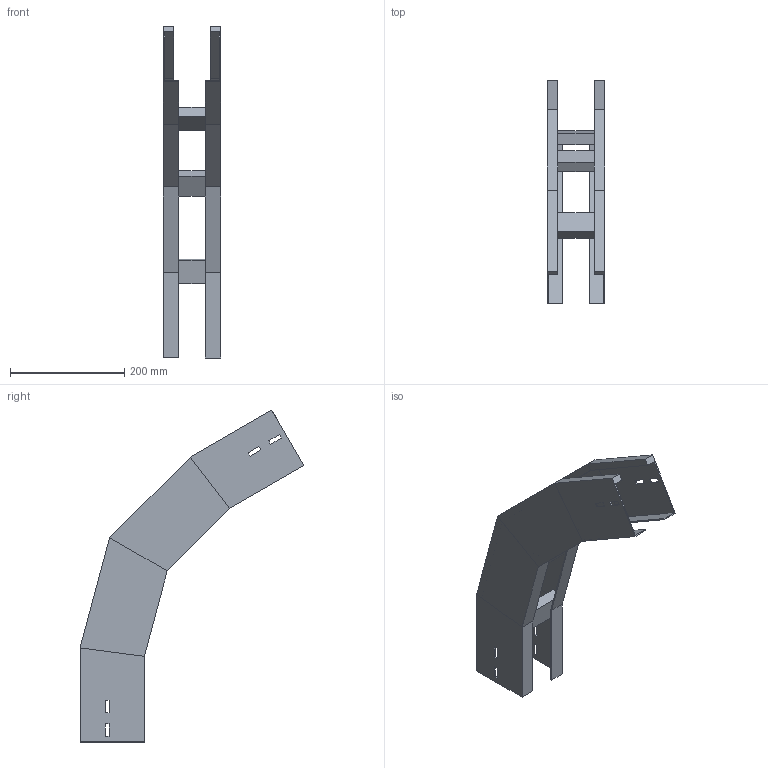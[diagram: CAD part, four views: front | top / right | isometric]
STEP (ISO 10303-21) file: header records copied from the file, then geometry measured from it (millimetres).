
FILE_DESCRIPTION (( 'STEP AP214' ), '1' );
FILE_NAME ('A2_41B3J100.step', '2025-02-21T14:58:08', ( '' ), ( '' ), 'SwSTEP 2.0', 'SolidWorks 2023', '' );
FILE_SCHEMA (( 'AUTOMOTIVE_DESIGN' ));
Length unit declared in the file: millimetre
Products named in the file (3): A2_41B3J100; TRAVERSINO_100; LONGH.DISCESA_60°_H112.5_R300
Assembly tree (5 placements, depth 2):
  A2_41B3J100
    LONGH.DISCESA_60°_H112.5_R300  x2
    TRAVERSINO_100  x3
Bounding box: 100 x 392.12 x 581.75 mm (x, y, z)
Volume: 871009.3 mm3; surface area: 454181.2 mm2
Topology: 5 solids, 5 shells, 118 faces, 276 edges, 168 vertices
Faces by surface type: plane 118
Entity records: 1672 total; most frequent: CARTESIAN_POINT 276, ORIENTED_EDGE 264, DIRECTION 260, LINE 132, VECTOR 132, EDGE_CURVE 132, VERTEX_POINT 80, AXIS2_PLACEMENT_3D 64
